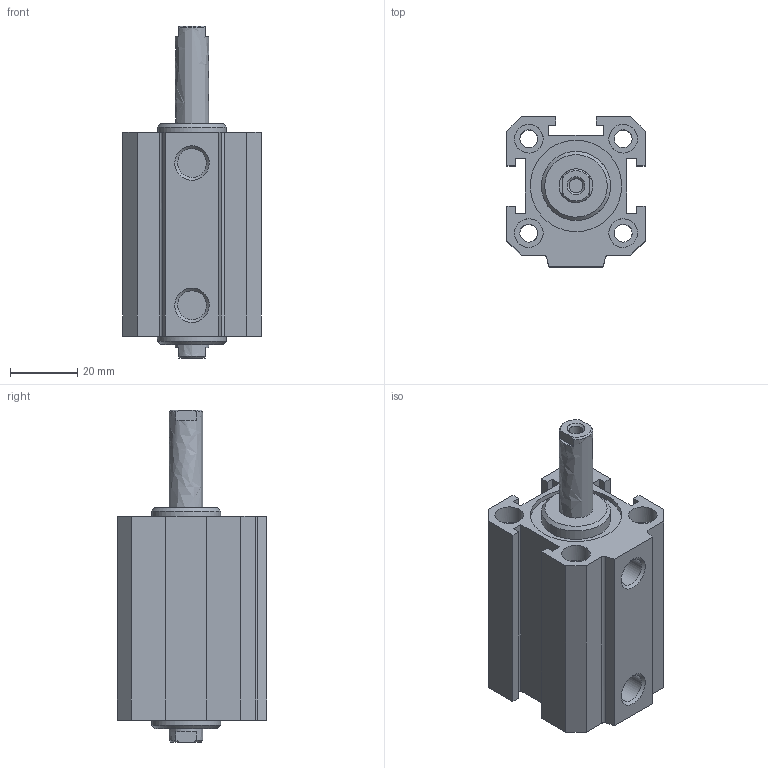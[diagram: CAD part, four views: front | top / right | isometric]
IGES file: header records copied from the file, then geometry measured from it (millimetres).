
Global section: file name: 1514_25_0025; native system: Autodesk Inventor 2014; preprocessor: unknown; author: A. Manieri; date: 20160824.111953; units: millimetre
Bounding box: 41 x 44.5 x 98.5 mm (x, y, z)
Volume: 73678.2 mm3; surface area: 31018.3 mm2
Topology: 2 solids, 2 shells, 106 faces, 280 edges, 198 vertices
Faces by surface type: bspline 106
